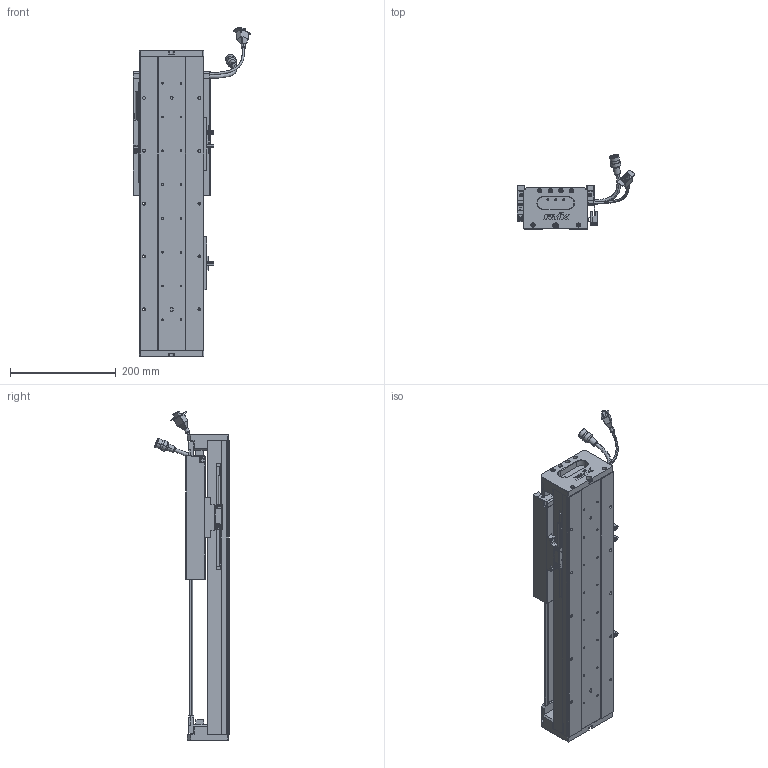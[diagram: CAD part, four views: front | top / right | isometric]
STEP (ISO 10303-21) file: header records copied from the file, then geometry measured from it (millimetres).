
FILE_DESCRIPTION (( 'STEP AP203' ), '1' );
FILE_NAME ('Z3-RY120D-1-L500-B-K.SLDASM_0250.step', '2021-05-17T05:45:43', ( '盈信电脑' ), ( '东莞市道滘镇水果街19号' ), 'SwSTEP 2.0', 'SolidWorks 2016', '' );
FILE_SCHEMA (( 'CONFIG_CONTROL_DESIGN' ));
Length unit declared in the file: millimetre
Products named in the file (37): Z-RY120D詩湍奻揤裔; SCREW-M1.6; 榋妏寠巭燃_暯_M2_2; SCALE-Part-1; SCREW-M1.7; HARNESS; SEAL; LABEL-Part-1; HOLDER0; Z-120詩湍傷裔啣; SHIELDPLATE; 140蚥薯蝶輸; HARNESS-Part-2; PBU_SHEET; 覜茼ん672; RY100FB-遵嫖萇覜茼え; 080黍杅芛假蚾釱21遴; SCREW-M1.7-1; SCREW-M1.6-1; Z-RY120D詩湍狟揤裔; Z3-RY120-L500詩湍100mm遵_0250; SCREW-M1.6-2; SCREW-M1.6-3; COVER-Part-1; SCALE; Z3-RY120D-1-L500-B-K.SLDASM_0250; SEAL-Part-1; 672嫖萇羲壽假蚾釱; Z3-RY120-500-倰第菁釱_0250; SCALE-Part-2; 140雄赽晤鎢ん堤盄; HARNESS-Part-1; Z3-RY120铝滑块（21款）; COVER; 120-Z-臏賑輸盄裔(21遴); LABEL; PSLH080_PSLF2
Assembly tree (43 placements, depth 4):
  Z3-RY120D-1-L500-B-K.SLDASM_0250
    Z3-RY120-500-倰第菁釱_0250
    覜茼ん672  x3
    672嫖萇羲壽假蚾釱  x2
    Z3-RY120铝滑块（21款）
    PSLH080_PSLF2
      SCALE
        SCALE-Part-1
        SCALE-Part-2
      HARNESS
        HARNESS-Part-1
        HARNESS-Part-2
      LABEL
        LABEL-Part-1
      COVER
        COVER-Part-1
      SEAL
        SEAL-Part-1
      榋妏寠巭燃_暯_M2_2
      SHIELDPLATE
      SCREW-M1.7
      SCREW-M1.7-1
      PBU_SHEET
      SCREW-M1.6
      SCREW-M1.6-1
      SCREW-M1.6-2
      SCREW-M1.6-3
      HOLDER0
    080黍杅芛假蚾釱21遴
    120-Z-臏賑輸盄裔(21遴)
    140雄赽晤鎢ん堤盄
    140蚥薯蝶輸  x2
    RY100FB-遵嫖萇覜茼え
    Z-120詩湍傷裔啣  x2
    Z-RY120D詩湍奻揤裔  x2
    Z-RY120D詩湍狟揤裔  x2
    Z3-RY120-L500詩湍100mm遵_0250
Bounding box: 222.88 x 140.94 x 624 mm (x, y, z)
Volume: 2161280.9 mm3; surface area: 684144.1 mm2
Topology: 38 solids, 38 shells, 2529 faces, 6659 edges, 4206 vertices
Faces by surface type: cylinder 1081, plane 1080, cone 246, torus 69, bspline 53
Entity records: 71830 total; most frequent: CARTESIAN_POINT 17603, DIRECTION 10559, ORIENTED_EDGE 10350, EDGE_CURVE 5175, AXIS2_PLACEMENT_3D 3844, VERTEX_POINT 3326, LINE 2871, VECTOR 2871
